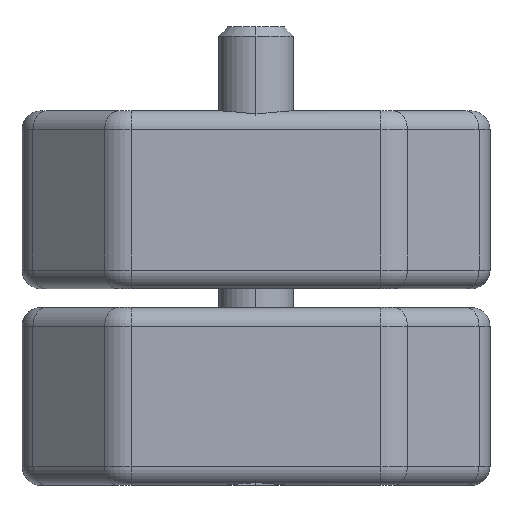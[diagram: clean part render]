
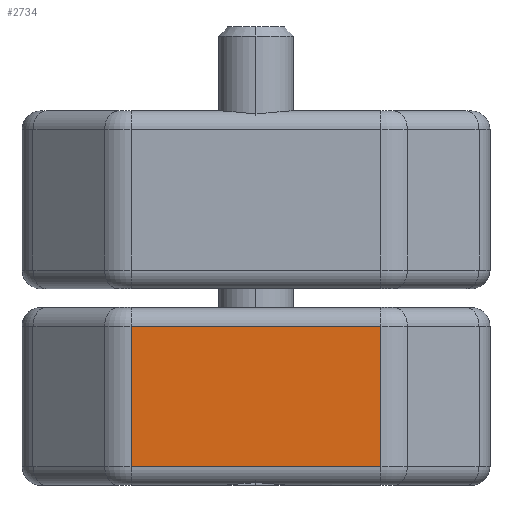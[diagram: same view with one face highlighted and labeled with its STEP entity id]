
A CAD part, left-side view. The second image highlights one B-rep face of the part: STEP entity #2734.
In plain terms, the highlighted planar face has unit normal (-1, 0, 0).
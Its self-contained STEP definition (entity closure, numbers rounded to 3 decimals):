
#94 = LINE ( 'NONE', #457, #5104 ) ;
#167 = CARTESIAN_POINT ( 'NONE',  ( 0., 5.828, -2. ) ) ;
#237 = ORIENTED_EDGE ( 'NONE', *, *, #1621, .T. ) ;
#405 = CARTESIAN_POINT ( 'NONE',  ( 0., 19.172, -2. ) ) ;
#457 = CARTESIAN_POINT ( 'NONE',  ( 0., 5.828, -1. ) ) ;
#765 = EDGE_CURVE ( 'NONE', #1870, #1291, #5811, .T. ) ;
#1224 = VERTEX_POINT ( 'NONE', #405 ) ;
#1291 = VERTEX_POINT ( 'NONE', #5707 ) ;
#1621 = EDGE_CURVE ( 'NONE', #1224, #1870, #2975, .T. ) ;
#1625 = VECTOR ( 'NONE', #4845, 1000. ) ;
#1706 = EDGE_CURVE ( 'NONE', #1291, #6093, #94, .T. ) ;
#1870 = VERTEX_POINT ( 'NONE', #4022 ) ;
#2204 = CARTESIAN_POINT ( 'NONE',  ( 0., 0., -9.5 ) ) ;
#2734 = ADVANCED_FACE ( 'NONE', ( #4361 ), #5800, .F. ) ;
#2738 = CARTESIAN_POINT ( 'NONE',  ( 0., 19.172, -10.5 ) ) ;
#2807 = EDGE_CURVE ( 'NONE', #6093, #1224, #2919, .T. ) ;
#2866 = CARTESIAN_POINT ( 'NONE',  ( 0., 0., -10.5 ) ) ;
#2919 = LINE ( 'NONE', #4351, #1625 ) ;
#2975 = LINE ( 'NONE', #2738, #5426 ) ;
#3031 = ORIENTED_EDGE ( 'NONE', *, *, #765, .T. ) ;
#3059 = VECTOR ( 'NONE', #4746, 1000. ) ;
#3352 = DIRECTION ( 'NONE',  ( 0., 0., -1. ) ) ;
#3357 = DIRECTION ( 'NONE',  ( 0., 0., 1. ) ) ;
#3703 = DIRECTION ( 'NONE',  ( 0., 0., -1. ) ) ;
#4022 = CARTESIAN_POINT ( 'NONE',  ( 0., 19.172, -9.5 ) ) ;
#4248 = EDGE_LOOP ( 'NONE', ( #5782, #6132, #237, #3031 ) ) ;
#4312 = AXIS2_PLACEMENT_3D ( 'NONE', #2866, #6281, #3352 ) ;
#4351 = CARTESIAN_POINT ( 'NONE',  ( 0., 19.172, -2. ) ) ;
#4361 = FACE_OUTER_BOUND ( 'NONE', #4248, .T. ) ;
#4746 = DIRECTION ( 'NONE',  ( 0., -1., 0. ) ) ;
#4845 = DIRECTION ( 'NONE',  ( 0., 1., 0. ) ) ;
#5104 = VECTOR ( 'NONE', #3357, 1000. ) ;
#5426 = VECTOR ( 'NONE', #3703, 1000. ) ;
#5707 = CARTESIAN_POINT ( 'NONE',  ( 0., 5.828, -9.5 ) ) ;
#5782 = ORIENTED_EDGE ( 'NONE', *, *, #1706, .T. ) ;
#5800 = PLANE ( 'NONE',  #4312 ) ;
#5811 = LINE ( 'NONE', #2204, #3059 ) ;
#6093 = VERTEX_POINT ( 'NONE', #167 ) ;
#6132 = ORIENTED_EDGE ( 'NONE', *, *, #2807, .T. ) ;
#6281 = DIRECTION ( 'NONE',  ( 1., 0., 0. ) ) ;
